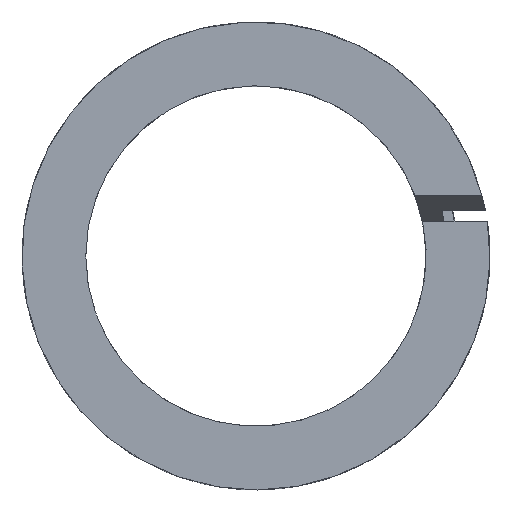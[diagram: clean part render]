
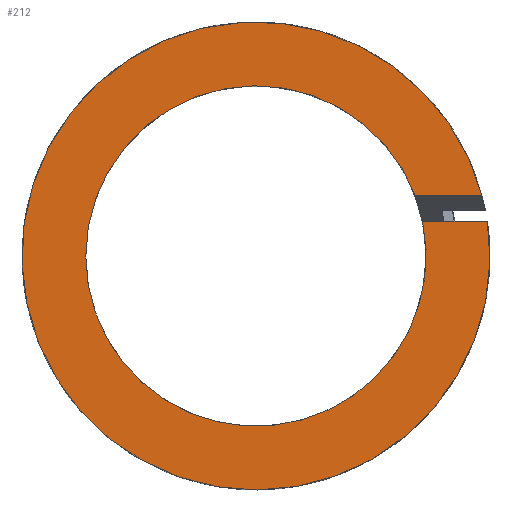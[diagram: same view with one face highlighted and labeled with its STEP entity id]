
A CAD part, top view. The second image highlights one B-rep face of the part: STEP entity #212.
In plain terms, the highlighted planar face has unit normal (0, 0, 1).
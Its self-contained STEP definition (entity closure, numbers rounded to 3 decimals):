
#20=PLANE('',#258);
#32=FACE_OUTER_BOUND('',#44,.T.);
#44=EDGE_LOOP('',(#190,#191,#192,#193,#194));
#56=CIRCLE('',#234,6.35);
#58=CIRCLE('',#238,8.731);
#59=CIRCLE('',#241,6.35);
#70=LINE('',#388,#80);
#71=LINE('',#390,#81);
#80=VECTOR('',#320,1.);
#81=VECTOR('',#323,1.);
#90=VERTEX_POINT('',#347);
#92=VERTEX_POINT('',#351);
#95=VERTEX_POINT('',#358);
#96=VERTEX_POINT('',#360);
#97=VERTEX_POINT('',#364);
#112=EDGE_CURVE('',#92,#90,#56,.T.);
#115=EDGE_CURVE('',#96,#95,#58,.T.);
#117=EDGE_CURVE('',#90,#97,#59,.T.);
#130=EDGE_CURVE('',#92,#96,#70,.T.);
#131=EDGE_CURVE('',#95,#97,#71,.T.);
#190=ORIENTED_EDGE('',*,*,#130,.T.);
#191=ORIENTED_EDGE('',*,*,#115,.T.);
#192=ORIENTED_EDGE('',*,*,#131,.T.);
#193=ORIENTED_EDGE('',*,*,#117,.F.);
#194=ORIENTED_EDGE('',*,*,#112,.F.);
#212=ADVANCED_FACE('',(#32),#20,.T.);
#234=AXIS2_PLACEMENT_3D('',#353,#277,#278);
#238=AXIS2_PLACEMENT_3D('',#361,#285,#286);
#241=AXIS2_PLACEMENT_3D('',#365,#291,#292);
#258=AXIS2_PLACEMENT_3D('',#397,#333,#334);
#277=DIRECTION('center_axis',(0.,0.,1.));
#278=DIRECTION('ref_axis',(1.,0.,0.));
#285=DIRECTION('center_axis',(0.,0.,1.));
#286=DIRECTION('ref_axis',(1.,0.,0.));
#291=DIRECTION('center_axis',(0.,0.,1.));
#292=DIRECTION('ref_axis',(1.,0.,0.));
#320=DIRECTION('',(1.,0.,0.));
#323=DIRECTION('',(-1.,0.,0.));
#333=DIRECTION('center_axis',(0.,0.,1.));
#334=DIRECTION('ref_axis',(1.,0.,0.));
#347=CARTESIAN_POINT('',(-6.35,0.,5.08));
#351=CARTESIAN_POINT('',(5.933,2.263,5.08));
#353=CARTESIAN_POINT('Origin',(0.,0.,5.08));
#358=CARTESIAN_POINT('',(8.635,1.294,5.08));
#360=CARTESIAN_POINT('',(8.433,2.263,5.08));
#361=CARTESIAN_POINT('Origin',(0.,0.,5.08));
#364=CARTESIAN_POINT('',(6.217,1.294,5.08));
#365=CARTESIAN_POINT('Origin',(0.,0.,5.08));
#388=CARTESIAN_POINT('',(5.953,2.263,5.08));
#390=CARTESIAN_POINT('',(5.953,1.294,5.08));
#397=CARTESIAN_POINT('Origin',(7.541,0.,5.08));
